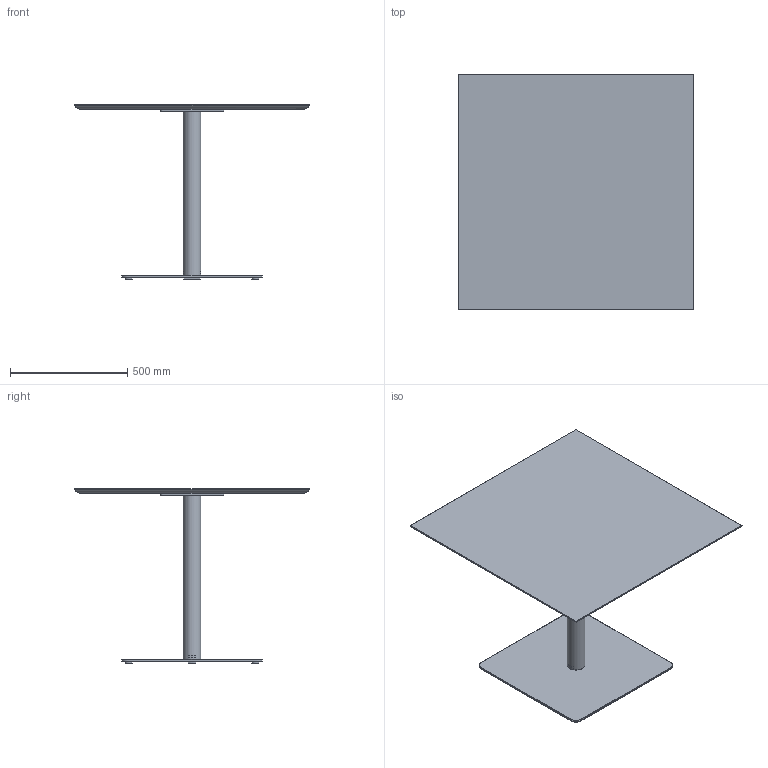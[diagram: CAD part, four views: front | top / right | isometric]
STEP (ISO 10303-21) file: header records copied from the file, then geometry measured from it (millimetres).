
FILE_DESCRIPTION( ('This file contains a STEP AP42 implementation' ,'as created by ZW3D STEP Interface translator.') ,'2;1' );
FILE_NAME( 'Henri - B_Carré - F4 - M3 - 1000 x 1000 x 750.stp' ,'24 912.1731 2', (''), ('ZWCAD Software Co.'), 'Version 1.0', 'ZW3D to STEP translator', '' );
FILE_SCHEMA(('AUTOMOTIVE_DESIGN { 1 0 10303 214 1 1 1 1 }'));
Length unit declared in the file: millimetre
Products named in the file (14): 0; PIED BISTROT PARAMETRIQUE_; COLONNE ACIER Ø76 V.02_; TUB-D076-02_; PLA-R76B-01_; CROIX ACIER 370 V.02_; CRX-X370-02_; SOCLE ACIER L 600x600 V.02_; SCL-R600-02_; PLA-R30A-01_; PLA-R30A-01; WUERTH 0276063020 Euro-screw 6.3x2 Verzinkt_; PLATEAU BISTROT PARAMETRIQUE_; insert_m6_13_
Assembly tree (22 placements, depth 3):
  0
  PIED BISTROT PARAMETRIQUE_
    COLONNE ACIER Ø76 V.02_
      TUB-D076-02_
      PLA-R76B-01_  x2
    CROIX ACIER 370 V.02_
      CRX-X370-02_
    SOCLE ACIER L 600x600 V.02_
      SCL-R600-02_
      PLA-R30A-01_
      PLA-R30A-01  x3
    WUERTH 0276063020 Euro-screw 6.3x2 Verzinkt_
    PLATEAU BISTROT PARAMETRIQUE_
      insert_m6_13_  x8
Bounding box: 1000 x 1000 x 744 mm (x, y, z)
Volume: 23197072.9 mm3; surface area: 3287635.9 mm2
Topology: 19 solids, 19 shells, 533 faces, 1306 edges, 818 vertices
Faces by surface type: plane 258, bspline 125, cylinder 102, cone 47, torus 1
Full cylindrical faces by diameter (mm): 4.88 x1, 6 x8, 6.3 x1, 8 x45, 12 x2, 14 x2, 30 x4, 72 x1, 76 x1
Entity records: 12234 total; most frequent: CARTESIAN_POINT 3472, ORIENTED_EDGE 1608, DIRECTION 1463, EDGE_CURVE 804, VERTEX_POINT 514, VECTOR 505, LINE 505, AXIS2_PLACEMENT_3D 479
